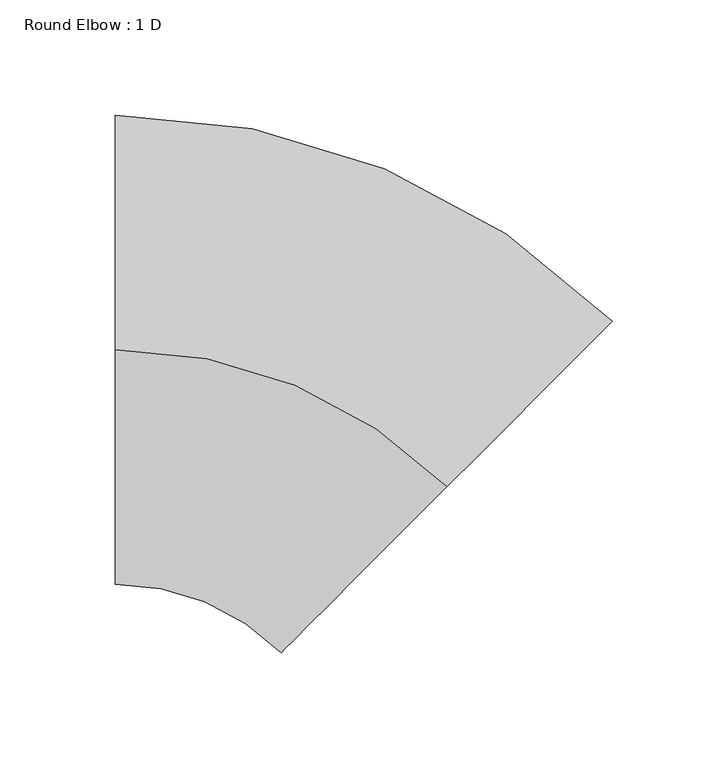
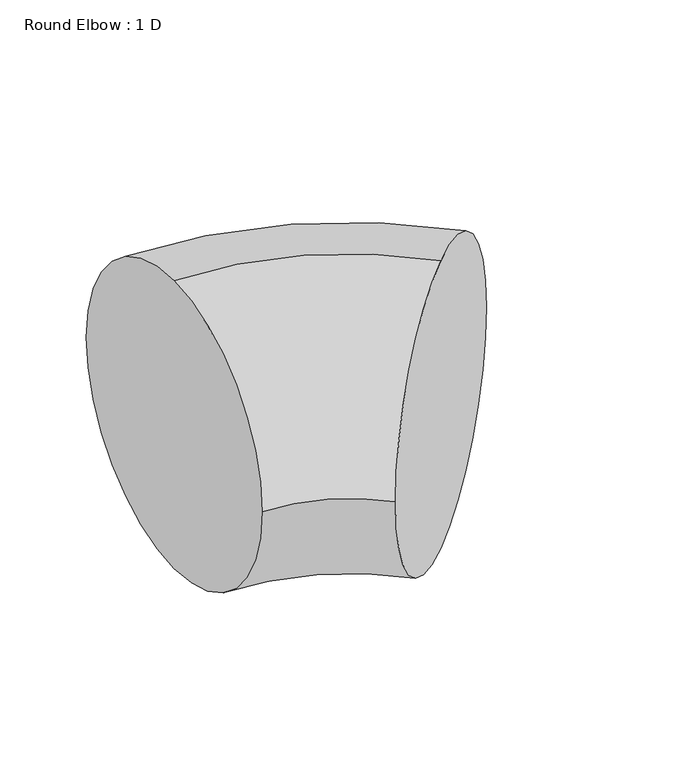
"""IFC4 building model written with IfcOpenShell, lengths in millimetres: duct fitting geometry, Round Elbow : 1 D."""

import ifcopenshell
import ifcopenshell.guid

model = None  # the IFC model being written
_history = None  # IfcOwnerHistory: only IFC2X3 demands one
_inside = {}  # id of a spatial element -> (the spatial element, [elements in it])
_under = {}  # id of a project, library or spatial element -> (it, [spatial elements below it])
_declared = {}  # id of a project -> (the project, [libraries it declares])
_typed = {}  # id of a type object -> (the type object, [elements of that type])
_made_of = {}  # id of a material, layer set ... -> (it, [elements and type objects made of it])


def new_model(schema):
    """Start an empty IFC model of exactly this schema.

    Asked for "IFC4X3", IfcOpenShell would pick the latest addendum, in which some entities
    have other attributes; the version numbers below select the first issue.
    IFC2X3 requires an IfcOwnerHistory on every rooted entity: one is made here for all.
    """
    global model, _history
    if schema == "IFC4X3":
        model = ifcopenshell.file(schema_version=(4, 3, 0, 0))
    else:
        model = ifcopenshell.file(schema=schema)
    _inside.clear()
    _under.clear()
    _declared.clear()
    _typed.clear()
    _made_of.clear()
    _history = None
    if model.schema == "IFC2X3":
        org = make("IfcOrganization", Name="unknown")
        user = make(
            "IfcPersonAndOrganization",
            ThePerson=make("IfcPerson", FamilyName="unknown"),
            TheOrganization=org,
        )
        app = make(
            "IfcApplication",
            ApplicationDeveloper=org,
            Version="unknown",
            ApplicationFullName="unknown",
            ApplicationIdentifier="unknown",
        )
        _history = make(
            "IfcOwnerHistory",
            OwningUser=user,
            OwningApplication=app,
            ChangeAction="ADDED",
            CreationDate=0,
        )
    return model


def make(cls, **values):
    """One entity of the class cls with the attributes given. An attribute that is None is left unset."""
    return model.create_entity(
        cls, **{name: value for name, value in values.items() if value is not None}
    )


def rooted(cls, **values):
    """An entity with a GlobalId (a new one), such as an element, a storey or a relation."""
    return make(cls, GlobalId=ifcopenshell.guid.new(), OwnerHistory=_history, **values)


def si_unit(unit_type, name, prefix=None):
    """IfcSIUnit, for example si_unit("LENGTHUNIT", "METRE", prefix="MILLI")."""
    return make("IfcSIUnit", UnitType=unit_type, Prefix=prefix, Name=name)


def assignment(units):
    """IfcUnitAssignment: the units of a project."""
    return None if units is None else make("IfcUnitAssignment", Units=units)


def point(xyz):
    """IfcCartesianPoint."""
    return None if xyz is None else make("IfcCartesianPoint", Coordinates=xyz)


def direction(xyz):
    """IfcDirection."""
    return None if xyz is None else make("IfcDirection", DirectionRatios=xyz)


def frame(location, z_axis=None, x_axis=None):
    """IfcAxis2Placement3D, a coordinate frame: its origin and axes. An axis left out is left unset."""
    return make(
        "IfcAxis2Placement3D",
        Location=point(location),
        Axis=direction(z_axis),
        RefDirection=direction(x_axis),
    )


def origin():
    """The frame at (0, 0, 0) with its axes left unset."""
    return frame((0.0, 0.0, 0.0))


def place(relative_to, where):
    """IfcLocalPlacement: puts the frame where relative to a parent placement (None: the world)."""
    return make(
        "IfcLocalPlacement", PlacementRelTo=relative_to, RelativePlacement=where
    )


def context(
    kind, dimensions, precision=None, world=None, true_north=None, identifier=None
):
    """IfcGeometricRepresentationContext, for example the 3D "Model" context."""
    return make(
        "IfcGeometricRepresentationContext",
        ContextIdentifier=identifier,
        ContextType=kind,
        CoordinateSpaceDimension=dimensions,
        Precision=precision,
        WorldCoordinateSystem=world,
        TrueNorth=true_north,
    )


def project(units=None, contexts=None):
    """IfcProject with its units and contexts."""
    return rooted(
        "IfcProject",
        Name="project",
        RepresentationContexts=contexts,
        UnitsInContext=assignment(units),
    )


def spatial(cls, under=None, at=None, **own):
    """A site, building, storey or space (cls), placed at a placement, below another one or the project."""
    s = rooted(cls, ObjectPlacement=at, **own)
    if under is not None:
        _under.setdefault(under.id(), (under, []))[1].append(s)
    return s


def circle_curve(where, radius):
    """IfcCircle in the frame where."""
    return make("IfcCircle", Position=where, Radius=radius)


def ellipse_curve(where, semi_axis1, semi_axis2):
    """IfcEllipse in the frame where."""
    return make(
        "IfcEllipse", Position=where, SemiAxis1=semi_axis1, SemiAxis2=semi_axis2
    )


def trimmed(basis, trim1, trim2, sense, master):
    """IfcTrimmedCurve: the piece of a basis curve between two trims."""
    return make(
        "IfcTrimmedCurve",
        BasisCurve=basis,
        Trim1=trim1,
        Trim2=trim2,
        SenseAgreement=sense,
        MasterRepresentation=master,
    )


def shape(context_of_items, identifier, shape_type, items):
    """IfcShapeRepresentation: the items that make up one representation, for example the "Body"."""
    return make(
        "IfcShapeRepresentation",
        ContextOfItems=context_of_items,
        RepresentationIdentifier=identifier,
        RepresentationType=shape_type,
        Items=items,
    )


def source(mapping_origin, context_of_items, identifier, shape_type, items):
    """IfcRepresentationMap: a shape defined once, which mapped items show again and again."""
    return make(
        "IfcRepresentationMap",
        MappingOrigin=mapping_origin,
        MappedRepresentation=shape(context_of_items, identifier, shape_type, items),
    )


def transform(
    local_origin,
    x_axis=None,
    y_axis=None,
    z_axis=None,
    scale=None,
    scale2=None,
    scale3=None,
    uniform=True,
):
    """IfcCartesianTransformationOperator3D, or its non-uniform kind. x_axis, y_axis, z_axis: its Axis1, 2, 3."""
    if uniform:
        return make(
            "IfcCartesianTransformationOperator3D",
            Axis1=direction(x_axis),
            Axis2=direction(y_axis),
            LocalOrigin=point(local_origin),
            Scale=scale,
            Axis3=direction(z_axis),
        )
    return make(
        "IfcCartesianTransformationOperator3DnonUniform",
        Axis1=direction(x_axis),
        Axis2=direction(y_axis),
        LocalOrigin=point(local_origin),
        Scale=scale,
        Axis3=direction(z_axis),
        Scale2=scale2,
        Scale3=scale3,
    )


def mapped(mapping_source, mapping_target):
    """IfcMappedItem: shows the shape of a source again, moved by a transform."""
    return make(
        "IfcMappedItem", MappingSource=mapping_source, MappingTarget=mapping_target
    )


def made_of(thing, what):
    """Note that an element or type object is made of a material, layer set ...; save() writes the relation."""
    if what is not None:
        _made_of.setdefault(what.id(), (what, []))[1].append(thing)
    return thing


def element(
    cls,
    number,
    at=None,
    inside=None,
    cuts=None,
    type_object=None,
    material=None,
    context=None,
    identifier="Body",
    shape_type=None,
    held_by="IfcProductDefinitionShape",
    body=None,
    shapes=None,
    **own,
):
    """One element of the class cls, such as IfcWall. Its Tag is "e" and its number.

    at: its placement. inside: the storey or other place that contains it. cuts: it is an
    opening in that element (IfcRelVoidsElement). A single representation is given by context,
    identifier, shape_type and body (its items); several are given by shapes. held_by: the class
    of the entity that holds the representations. save() writes the other relations.
    """
    e = rooted(cls, Tag="e%d" % number, ObjectPlacement=at, **own)
    if body is not None:
        shapes = [shape(context, identifier, shape_type, body)]
    if shapes is not None:
        e.Representation = make(held_by, Representations=shapes)
    if inside is not None:
        _inside.setdefault(inside.id(), (inside, []))[1].append(e)
    if cuts is not None:
        rooted(
            "IfcRelVoidsElement", RelatingBuildingElement=cuts, RelatedOpeningElement=e
        )
    if type_object is not None:
        _typed.setdefault(type_object.id(), (type_object, []))[1].append(e)
    return made_of(e, material)


def aggregate(whole, parts):
    """IfcRelAggregates: a whole, such as a stair, and the parts it consists of."""
    return rooted("IfcRelAggregates", RelatingObject=whole, RelatedObjects=parts)


def save(model, path):
    """Write the relations noted so far, then the file.

    IfcRelAggregates (storeys below a building ...), IfcRelContainedInSpatialStructure (elements
    in a storey), IfcRelDefinesByType, IfcRelAssociatesMaterial and IfcRelDeclares: one each for
    every whole, place, type object, material and project.
    """
    for whole, parts in _under.values():
        aggregate(whole, parts)
    for where, things in _inside.values():
        rooted(
            "IfcRelContainedInSpatialStructure",
            RelatedElements=things,
            RelatingStructure=where,
        )
    for kind, things in _typed.values():
        rooted("IfcRelDefinesByType", RelatedObjects=things, RelatingType=kind)
    for what, things in _made_of.values():
        rooted("IfcRelAssociatesMaterial", RelatedObjects=things, RelatingMaterial=what)
    for by, libraries in _declared.values():
        rooted("IfcRelDeclares", RelatingContext=by, RelatedDefinitions=libraries)
    model.write(path)


def plane_surface(at):
    """IfcPlane: the flat surface through the origin of the frame at, square to its z axis."""
    return make("IfcPlane", Position=at)


def revolved_surface(curve, axis_point, axis_direction):
    """IfcSurfaceOfRevolution: the curve turned about the line through axis_point along axis_direction."""
    return make(
        "IfcSurfaceOfRevolution",
        SweptCurve=make("IfcArbitraryOpenProfileDef", ProfileType="CURVE", Curve=curve),
        AxisPosition=make("IfcAxis1Placement", Location=point(axis_point), Axis=direction(axis_direction)),
    )


def advanced_brep(points, edges, surfaces, faces):
    """IfcAdvancedBrep: a solid bounded by faces that lie on surfaces and meet in shared edges.

    An edge is (start, end): straight between two places in points (the first is 0);
    or (start, end, curve); or (start, end, curve, False) where it runs against its curve.
    A face is (place in surfaces, loops), or (place, loops, False) where it looks against
    its surface's normal. A loop lists edges by number (the first is 1), with a minus sign
    where the edge is run from its end to its start. The first loop is the outer one.
    """
    corners = [point(p) for p in points]
    vertices = [make("IfcVertexPoint", VertexGeometry=c) for c in corners]
    made = []
    for start, end, *more in edges:
        made.append(
            make(
                "IfcEdgeCurve",
                EdgeStart=vertices[start],
                EdgeEnd=vertices[end],
                EdgeGeometry=more[0] if more else make("IfcPolyline", Points=[corners[start], corners[end]]),
                SameSense=more[1] if len(more) > 1 else True,
            )
        )
    hull = []
    for where, loops, *sense in faces:
        bounds = []
        for j, loop in enumerate(loops):
            ring = [make("IfcOrientedEdge", EdgeElement=made[abs(k) - 1], Orientation=k > 0) for k in loop]
            bounds.append(
                make(
                    "IfcFaceOuterBound" if j == 0 else "IfcFaceBound",
                    Bound=make("IfcEdgeLoop", EdgeList=ring),
                    Orientation=True,
                )
            )
        hull.append(make("IfcAdvancedFace", Bounds=bounds, FaceSurface=surfaces[where], SameSense=sense[0] if sense else True))
    return make("IfcAdvancedBrep", Outer=make("IfcClosedShell", CfsFaces=hull))


def round_elbow_1_d_3f34665d(model_context):
    return source(origin(), model_context, "Body", "AdvancedBrep", [
        advanced_brep(
        [(-84.1681959, 0.0, 101.6), (-84.1681959, 101.6, 0.0), (-84.1681959, 0.0, -101.6), (-84.1681959, -101.6, 0.0), (59.5159021, -59.5159021, 101.6), (-12.3261469, -131.357951, 0.0), (59.5159021, -59.5159021, -101.6), (131.357951, 12.3261469, 0.0)],
        [
            (0, 1, circle_curve(frame((-84.1681959, 0.0, 0.0), z_axis=(-1.0, 0.0, 0.0), x_axis=(0.0, -1.0, 0.0)), 101.6)),
            (1, 2, circle_curve(frame((-84.1681959, 0.0, 0.0), z_axis=(-1.0, 0.0, 0.0), x_axis=(0.0, -1.0, 0.0)), 101.6)),
            (2, 3, circle_curve(frame((-84.1681959, 0.0, 0.0), z_axis=(-1.0, 0.0, 0.0), x_axis=(0.0, -1.0, 0.0)), 101.6)),
            (3, 0, circle_curve(frame((-84.1681959, 0.0, 0.0), z_axis=(-1.0, 0.0, 0.0), x_axis=(0.0, -1.0, 0.0)), 101.6)),
            (4, 5, circle_curve(frame((59.5159021, -59.5159021, 0.0), z_axis=(0.707106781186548, -0.707106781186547, 0.0), x_axis=(-0.707106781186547, -0.707106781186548, 0.0)), 101.6)),
            (5, 6, circle_curve(frame((59.5159021, -59.5159021, 0.0), z_axis=(0.707106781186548, -0.707106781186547, 0.0), x_axis=(-0.707106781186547, -0.707106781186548, 0.0)), 101.6)),
            (6, 7, circle_curve(frame((59.5159021, -59.5159021, 0.0), z_axis=(0.707106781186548, -0.707106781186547, 0.0), x_axis=(-0.707106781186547, -0.707106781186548, 0.0)), 101.6)),
            (7, 4, circle_curve(frame((59.5159021, -59.5159021, 0.0), z_axis=(0.707106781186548, -0.707106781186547, 0.0), x_axis=(-0.707106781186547, -0.707106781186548, 0.0)), 101.6)),
            (4, 0, circle_curve(frame((-84.1681959, -203.2, 101.6), z_axis=(0.0, 0.0, 1.0), x_axis=(0.0, 1.0, 0.0)), 203.2)),
            (3, 5, circle_curve(frame((-84.1681959, -203.2, 0.0), z_axis=(0.0, 0.0, -1.0), x_axis=(0.0, 1.0, 0.0)), 101.6)),
            (2, 6, circle_curve(frame((-84.1681959, -203.2, -101.6), z_axis=(0.0, 0.0, -1.0), x_axis=(0.0, 1.0, 0.0)), 203.2)),
            (1, 7, circle_curve(frame((-84.1681959, -203.2, 0.0), z_axis=(0.0, 0.0, -1.0), x_axis=(0.0, 1.0, 0.0)), 304.8)),
        ],
        [
            plane_surface(frame((-84.1681959, 0.0, 0.0), z_axis=(-1.0, 0.0, 0.0), x_axis=(0.0, 0.0, 1.0))),
            plane_surface(frame((59.5159021, -59.5159021, 0.0), z_axis=(0.707106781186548, -0.7071067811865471, 0.0), x_axis=(0.0, 0.0, 1.0))),
            revolved_surface(trimmed(ellipse_curve(frame((-84.1681959, 0.0, 0.0), z_axis=(1.0, 0.0, 0.0), x_axis=(0.0, -1.0, 0.0)), 101.6, 101.6), [point((-84.1681959, 0.0, 101.6))], [point((-84.1681959, -101.6, 0.0))], True, "CARTESIAN"), (-84.1681959, -203.2, 0.0), (0.0, 0.0, 1.0)),
            revolved_surface(trimmed(ellipse_curve(frame((-84.1681959, 0.0, 0.0), z_axis=(1.0, 0.0, 0.0), x_axis=(0.0, -1.0, 0.0)), 101.6, 101.6), [point((-84.1681959, -101.6, 0.0))], [point((-84.1681959, 0.0, -101.6))], True, "CARTESIAN"), (-84.1681959, -203.2, 0.0), (0.0, 0.0, 1.0)),
            revolved_surface(trimmed(ellipse_curve(frame((-84.1681959, 0.0, 0.0), z_axis=(1.0, 0.0, 0.0), x_axis=(0.0, -1.0, 0.0)), 101.6, 101.6), [point((-84.1681959, 0.0, -101.6))], [point((-84.1681959, 101.6, 0.0))], True, "CARTESIAN"), (-84.1681959, -203.2, 0.0), (0.0, 0.0, 1.0)),
            revolved_surface(trimmed(ellipse_curve(frame((-84.1681959, 0.0, 0.0), z_axis=(1.0, 0.0, 0.0), x_axis=(0.0, -1.0, 0.0)), 101.6, 101.6), [point((-84.1681959, 101.6, 0.0))], [point((-84.1681959, 0.0, 101.6))], True, "CARTESIAN"), (-84.1681959, -203.2, 0.0), (0.0, 0.0, 1.0)),
        ],
        [
            (0, [[1, 2, 3, 4]]),
            (1, [[5, 6, 7, 8]]),
            (2, [[-5, 9, -4, 10]]),
            (3, [[-6, -10, -3, 11]]),
            (4, [[-7, -11, -2, 12]]),
            (5, [[-8, -12, -1, -9]]),
        ],
    ),
    ])


if __name__ == "__main__":
    model = new_model("IFC4")
    model_context = context("Model", 3, world=origin())
    ifc_project = project(units=[si_unit("LENGTHUNIT", "METRE", prefix="MILLI")], contexts=[model_context])
    site = spatial("IfcSite", under=ifc_project)
    building = spatial("IfcBuilding", under=site)
    placement = place(None, origin())
    round_elbow_1_d_shape = round_elbow_1_d_3f34665d(model_context)
    element("IfcDuctFitting", 1, ObjectType="Round Elbow : 1 D", at=placement, inside=building, context=model_context, shape_type="MappedRepresentation", body=[
        mapped(round_elbow_1_d_shape, transform((0.0, 0.0, 0.0), x_axis=(1.0, 0.0, 0.0), y_axis=(0.0, 1.0, 0.0), z_axis=(0.0, 0.0, 1.0))),
    ])
    save(model, "model.ifc")
